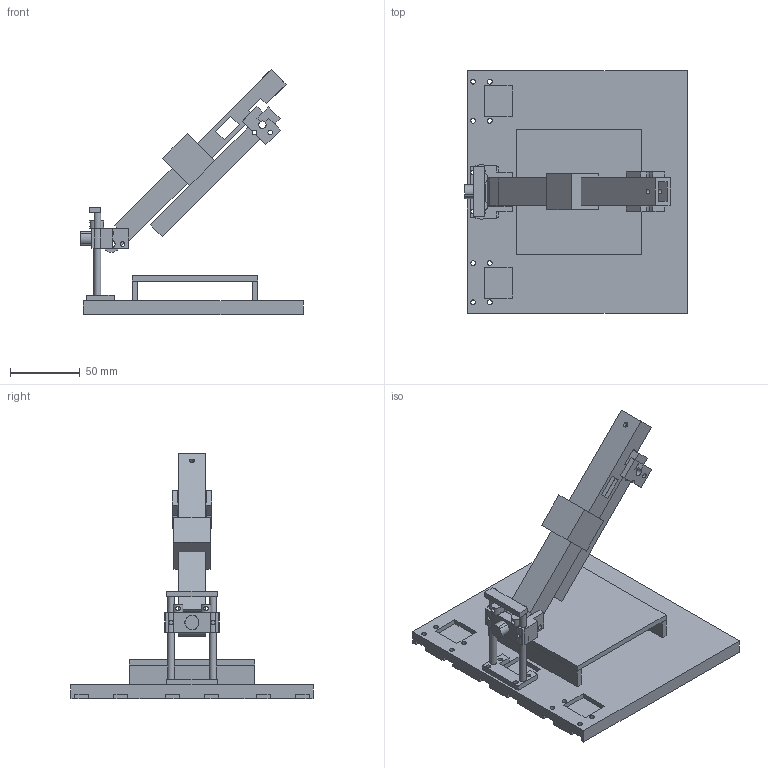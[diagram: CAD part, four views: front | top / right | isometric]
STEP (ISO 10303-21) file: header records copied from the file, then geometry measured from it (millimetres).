
FILE_DESCRIPTION(('Open CASCADE Model'),'2;1');
FILE_NAME('F07_asm_midfold','2026-11-15T22:32:22',('Author'),( 'Open CASCADE'),'Open CASCADE STEP processor 8.0','build123d', 'Unknown');
FILE_SCHEMA(('AUTOMOTIVE_DESIGN { 1 0 10303 214 1 1 1 1 }'));
Length unit declared in the file: millimetre
Products named in the file (7): F07_asm_midfold; BASE; BED; TWR_0; CAR_0; COL_0; ARM
Assembly tree (6 placements, depth 2):
  F07_asm_midfold
    BASE
    BED
    TWR_0
    CAR_0
    COL_0
    ARM
Bounding box: 159.5 x 173.5 x 175.66 mm (x, y, z)
Volume: 391404.9 mm3; surface area: 128948.4 mm2
Topology: 6 solids, 6 shells, 289 faces, 800 edges, 526 vertices
Faces by surface type: plane 224, cylinder 65
Full cylindrical faces by diameter (mm): 3.4 x36, 5 x2, 5.3 x4, 5.4 x2
Entity records: 25074 total; most frequent: CARTESIAN_POINT 9580, DIRECTION 2602, LINE 1612, VECTOR 1612, ORIENTED_EDGE 1600, PCURVE 1600, DEFINITIONAL_REPRESENTATION 1600, EDGE_CURVE 800
